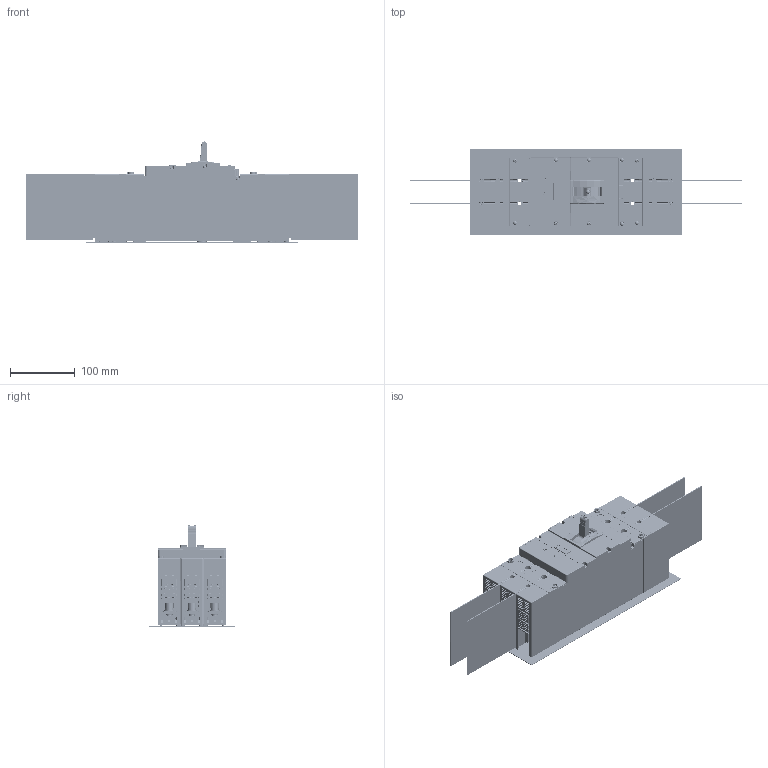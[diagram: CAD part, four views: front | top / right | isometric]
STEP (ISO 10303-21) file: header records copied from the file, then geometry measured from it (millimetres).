
FILE_DESCRIPTION((''),'2;1');
FILE_NAME('2ZTD_256_839_1-18_ASM_7_ASM_12_ASM','2023-07-04T16:12:18',('hshic'),(''),'CREO PARAMETRIC BY PTC INC, 2020044','CREO PARAMETRIC BY PTC INC, 2020044','');
FILE_SCHEMA(('CONFIG_CONTROL_DESIGN','SHAPE_APPEARANCE_LAYERS_GROUPS'));
Products named in the file (52): 8ZTD_024_1085_1_1; 8754M0101102_1_1; 8940M0308103_1_1; 8300M0101002_1_1; 5ZTD_024_1059_ASM_1_ASM_1_ASM; 8ZTD_005_808_1-2_1_3; 8ZTD_585_1649_1-2_1_3; 5ZTD_550_932_1-2_ASM_1_ASM_8_ASM; 8ZTD_005_807_1_3; 5ZTD_005_566_1-6_ASM_7_ASM_8_ASM; 5ZTD_295_675_ASM_1_ASM_2; 8ZTD_232_207_1_1; 8206M0312195_1_1; 5ZTD_232_083_AF1_ASM_1_ASM_1_ASM; 8ZTD_253_1027_1_1; 8210M0101002_1_1; SP070448_1_1; 8860M1424009_1_1; 8860M1424010_1_1; 5ZTD_253_501_ASM_1_ASM_1_ASM; 5ZTD_232_084_AF4_ASM_1_ASM_2_ASM; 5ZTD_295_676_ASM_7_ASM_2_ASM; 8ZTD_005_806_1-2_1_3; 5ZTD_005_565_1-6_ASM_7_ASM_6_ASM; 8ZTD_005_809_1_2; 5ZTD_005_567_1-6_ASM_7_ASM_5_ASM; 5ZTD_519_1758_1-6_ASM_7_ASM_5_ASM; 8ZTD_420_591_1-5_1_2; 5ZTD_420_247_1-6_ASM_1_ASM_3_ASM; 5ZTD_420_248_1-9_ASM_1_ASM_3_ASM; 8043M0101002_1_1; 8ZTD-253-834_1_1; 8ZTD-253-835_1_1; 5ZTD_422_043_1-18_ASM_7_ASM_4_ASM; 8ZTD_742_2372_1_1; 8ZTD_315_1831_1-4_1_6; 8282M0820005_AF1_1_1; 8ZTD_253_1016_1_1; 8ZTD_742_2338_1_1; 5ZTD_315_640_1-4_ASM_1_ASM_3_ASM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
Assembly tree (97 placements, depth 6):
  2ZTD_256_839_1-18_ASM_7_ASM_12_ASM
    5ZTD_024_1059_ASM_1_ASM_1_ASM
      8ZTD_024_1085_1_1
      8754M0101102_1_1  x6
      8940M0308103_1_1  x6
      8300M0101002_1_1  x6
    5ZTD_519_1758_1-6_ASM_7_ASM_5_ASM
      5ZTD_005_566_1-6_ASM_7_ASM_8_ASM
        8ZTD_005_808_1-2_1_3
        5ZTD_550_932_1-2_ASM_1_ASM_8_ASM
          8ZTD_585_1649_1-2_1_3
        8ZTD_005_807_1_3
      5ZTD_295_676_ASM_7_ASM_2_ASM
        5ZTD_295_675_ASM_1_ASM_2
        5ZTD_232_084_AF4_ASM_1_ASM_2_ASM
          5ZTD_232_083_AF1_ASM_1_ASM_1_ASM
            8ZTD_232_207_1_1
            8206M0312195_1_1
          5ZTD_253_501_ASM_1_ASM_1_ASM
            8ZTD_253_1027_1_1
            8210M0101002_1_1
            SP070448_1_1
            8860M1424009_1_1
            8860M1424010_1_1
      5ZTD_005_565_1-6_ASM_7_ASM_6_ASM
        8ZTD_005_806_1-2_1_3
        5ZTD_550_932_1-2_ASM_1_ASM_8_ASM
          8ZTD_585_1649_1-2_1_3
        8ZTD_005_807_1_3
      5ZTD_005_567_1-6_ASM_7_ASM_5_ASM
        8ZTD_005_808_1-2_1_3
        5ZTD_550_932_1-2_ASM_1_ASM_8_ASM
          8ZTD_585_1649_1-2_1_3
        8ZTD_005_809_1_2
    5ZTD_422_043_1-18_ASM_7_ASM_4_ASM
      5ZTD_420_248_1-9_ASM_1_ASM_3_ASM  x3
        5ZTD_420_247_1-6_ASM_1_ASM_3_ASM
          8ZTD_420_591_1-5_1_2
      8043M0101002_1_1
      8ZTD-253-834_1_1
      8ZTD-253-835_1_1
    8ZTD_742_2372_1_1  x3
    5ZTD_315_640_1-4_ASM_1_ASM_3_ASM
      8ZTD_315_1831_1-4_1_6
      8282M0820005_AF1_1_1
      8ZTD_253_1016_1_1
      8ZTD_742_2338_1_1  x3
    8ZTD_315_1830_1_1
    SP040453_1_1  x2
    SP040844_1_1  x2
    SP070443_1_1  x6
    SP070445_1_1  x4
    SP110690_1_1  x6
    8ZTD_304_289_1_11
    8ZTD_304_289_2_1_10
    SP070456_1_1  x4
    8ZTD_742_2335_1_1  x4
    8ZTD_750_1140
Bounding box: 512 x 132 x 155.92 mm (x, y, z)
Volume: 897911.3 mm3; surface area: 902806.8 mm2
Topology: 82 solids, 112 shells, 18444 faces, 52052 edges, 33597 vertices
Faces by surface type: plane 9700, cylinder 6796, torus 623, cone 491, bspline 427, sphere 407
Entity records: 570959 total; most frequent: CARTESIAN_POINT 115019, ORIENTED_EDGE 79438, DIRECTION 76046, EDGE_CURVE 39734, VECTOR 25988, LINE 25988, VERTEX_POINT 25835, AXIS2_PLACEMENT_3D 25029
